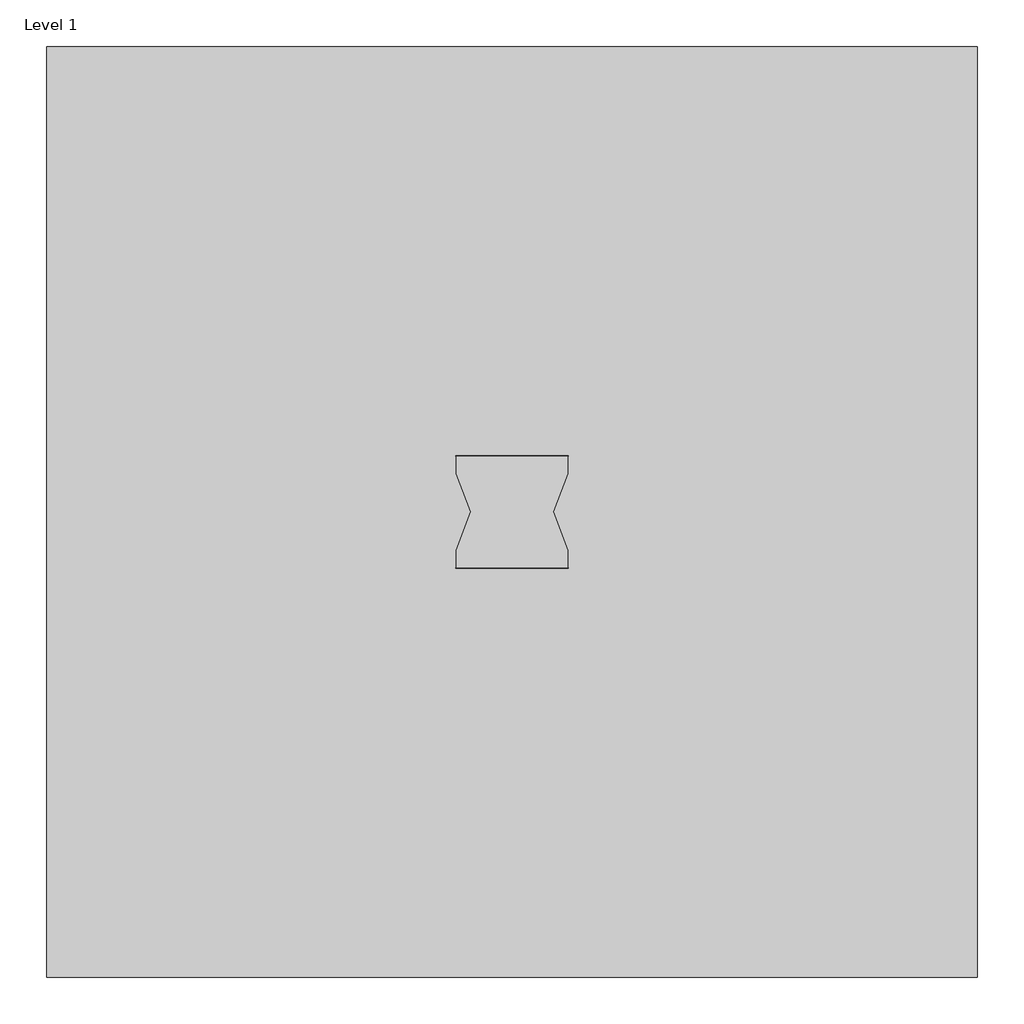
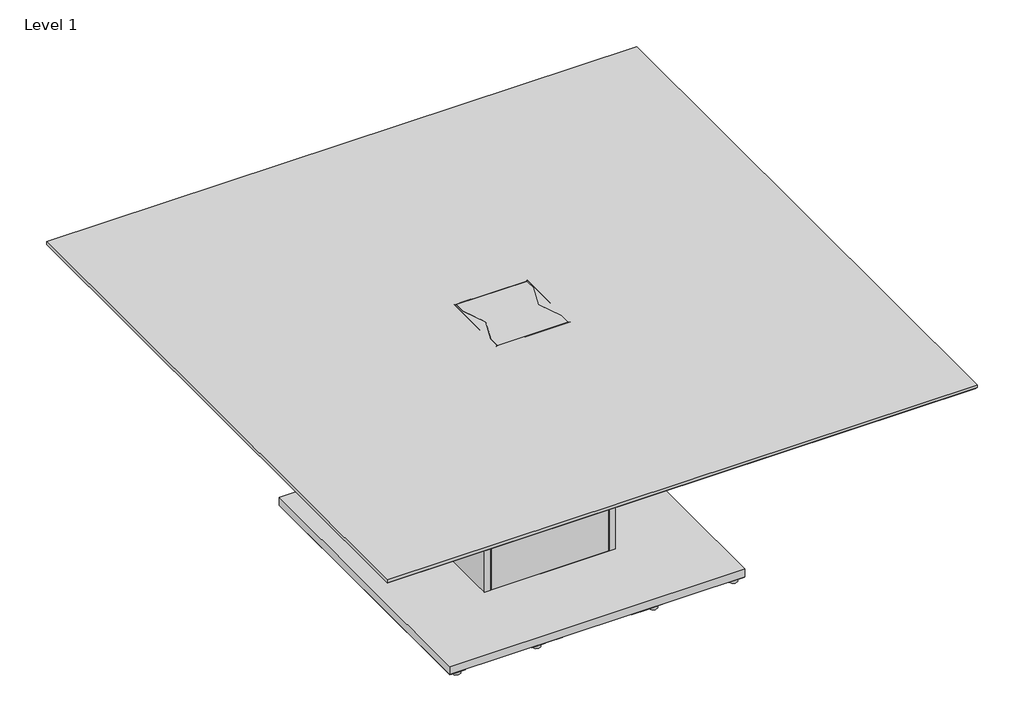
# One storey, incomplete: 34 proxies.
"""IFC4 building model written with IfcOpenShell, lengths in millimetres."""

from ifc_helpers import new_model, si_unit, origin, place, context, project, spatial, transform, mapped, element, save
from components import generic_models_52e6f8b7, generic_models_cd774e30, generic_models_1611a3a9, generic_models_f412d4dc, generic_models_36fbda0c, generic_models_1be812d6, generic_models_56d27a49, generic_models_b83a9f62, generic_models_ec8657f2, glide_1_4_mm_324_80842d46

model = new_model("IFC4")

# Units and contexts
model_context = context("Model", 3, world=origin())
ifc_project = project(units=[si_unit("LENGTHUNIT", "METRE", prefix="MILLI")], contexts=[model_context])

# Site, building, storey
site = spatial("IfcSite", under=ifc_project)
building = spatial("IfcBuilding", under=site)
storey = spatial("IfcBuildingStorey", under=building, Name="Level 1", Elevation=0.0)

# Proxies
placement = place(None, origin())
generic_models_shape = generic_models_52e6f8b7(model_context)
element("IfcBuildingElementProxy", 1, Name="AERO^TABLE 2_ATS1S-4848^CNTLVR BLK SHRT05", ObjectType="AERO^TABLE 2_ATS1S-4848^CNTLVR BLK SHRT05", at=placement, inside=storey, context=model_context, shape_type="MappedRepresentation", body=[
    mapped(generic_models_shape, transform((427.83125, 138.90625, 866.775), x_axis=(0.0, -1.0, 0.0), y_axis=(0.0, 0.0, 1.0), z_axis=(-1.0, 0.0, 0.0))),
])
element("IfcBuildingElementProxy", 2, Name="AERO^TABLE 2_ATS1S-4848^CNTLVR BLK SHRT05", ObjectType="AERO^TABLE 2_ATS1S-4848^CNTLVR BLK SHRT05", at=placement, inside=storey, context=model_context, shape_type="MappedRepresentation", body=[
    mapped(generic_models_shape, transform((143.66875, -100.80625, 866.775), x_axis=(0.0, 1.0, 0.0), y_axis=(0.0, 0.0, 1.0), z_axis=(1.0, 0.0, 0.0))),
])
element("IfcBuildingElementProxy", 3, Name="AERO^TABLE 2_ATS1S-4848^CNTLVR BLK SHRT05", ObjectType="AERO^TABLE 2_ATS1S-4848^CNTLVR BLK SHRT05", at=placement, inside=storey, context=model_context, shape_type="MappedRepresentation", body=[
    mapped(generic_models_shape, transform((143.66875, 161.13125, 866.775), x_axis=(0.0, 1.0, 0.0), y_axis=(0.0, 0.0, 1.0), z_axis=(1.0, 0.0, 0.0))),
])
element("IfcBuildingElementProxy", 4, Name="AERO^TABLE 2_ATS1S-4848^CNTLVR BLK SHRT05", ObjectType="AERO^TABLE 2_ATS1S-4848^CNTLVR BLK SHRT05", at=placement, inside=storey, context=model_context, shape_type="MappedRepresentation", body=[
    mapped(generic_models_shape, transform((427.83125, -123.03125, 866.775), x_axis=(0.0, -1.0, 0.0), y_axis=(0.0, 0.0, 1.0), z_axis=(-1.0, 0.0, 0.0))),
])
generic_models_2_shape = generic_models_cd774e30(model_context)
element("IfcBuildingElementProxy", 5, Name="AERO^TABLE 2_H-QFSB27^BASE08", ObjectType="AERO^TABLE 2_H-QFSB27^BASE08", at=placement, inside=storey, context=model_context, shape_type="MappedRepresentation", body=[
    mapped(generic_models_2_shape, transform((131.75615, 475.234, 225.9965), x_axis=(1.0, 0.0, 0.0), y_axis=(0.0, 0.0, 1.0), z_axis=(0.0, -1.0, 0.0))),
])
generic_models_3_shape = generic_models_1611a3a9(model_context)
element("IfcBuildingElementProxy", 6, Name="AERO^TABLE 2_H-QSQCB09", ObjectType="AERO^TABLE 2_H-QSQCB09", at=placement, inside=storey, context=model_context, shape_type="MappedRepresentation", body=[
    mapped(generic_models_3_shape, transform((169.06875, 323.85, 863.6), x_axis=(1.0, 0.0, 0.0), y_axis=(0.0, 0.0, 1.0), z_axis=(0.0, -1.0, 0.0))),
])
generic_models_4_shape = generic_models_f412d4dc(model_context)
element("IfcBuildingElementProxy", 7, Name="AERO^TABLE 2_H-QCSB27-SS11", ObjectType="AERO^TABLE 2_H-QCSB27-SS11", at=placement, inside=storey, context=model_context, shape_type="MappedRepresentation", body=[
    mapped(generic_models_4_shape, transform((-171.45, 476.25, 228.6), x_axis=(0.0, -1.0, 0.0), y_axis=(0.0, 0.0, 1.0), z_axis=(-1.0, 0.0, 0.0))),
])
generic_models_5_shape = generic_models_36fbda0c(model_context)
element("IfcBuildingElementProxy", 8, Name="AERO^TABLE 2_ATS1S-4848^CNTLVR BLK06", ObjectType="AERO^TABLE 2_ATS1S-4848^CNTLVR BLK06", at=placement, inside=storey, context=model_context, shape_type="MappedRepresentation", body=[
    mapped(generic_models_5_shape, transform((143.66875, -100.80625, 866.775), x_axis=(-1.0, 0.0, 0.0), y_axis=(0.0, 0.0, 1.0), z_axis=(0.0, 1.0, 0.0))),
])
element("IfcBuildingElementProxy", 9, Name="AERO^TABLE 2_ATS1S-4848^CNTLVR BLK06", ObjectType="AERO^TABLE 2_ATS1S-4848^CNTLVR BLK06", at=placement, inside=storey, context=model_context, shape_type="MappedRepresentation", body=[
    mapped(generic_models_5_shape, transform((427.83125, 138.90625, 866.775), x_axis=(1.0, 0.0, 0.0), y_axis=(0.0, 0.0, 1.0), z_axis=(0.0, -1.0, 0.0))),
])
element("IfcBuildingElementProxy", 10, Name="AERO^TABLE 2_ATS1S-4848^CNTLVR BLK06", ObjectType="AERO^TABLE 2_ATS1S-4848^CNTLVR BLK06", at=placement, inside=storey, context=model_context, shape_type="MappedRepresentation", body=[
    mapped(generic_models_5_shape, transform((165.89375, 138.90625, 866.775), x_axis=(1.0, 0.0, 0.0), y_axis=(0.0, 0.0, 1.0), z_axis=(0.0, -1.0, 0.0))),
])
element("IfcBuildingElementProxy", 11, Name="AERO^TABLE 2_ATS1S-4848^CNTLVR BLK06", ObjectType="AERO^TABLE 2_ATS1S-4848^CNTLVR BLK06", at=placement, inside=storey, context=model_context, shape_type="MappedRepresentation", body=[
    mapped(generic_models_5_shape, transform((405.60625, -100.80625, 866.775), x_axis=(-1.0, 0.0, 0.0), y_axis=(0.0, 0.0, 1.0), z_axis=(0.0, 1.0, 0.0))),
])
generic_models_6_shape = generic_models_1be812d6(model_context)
element("IfcBuildingElementProxy", 12, Name="AERO^TABLE 2_ATS1S-4848^Shroud 0107", ObjectType="AERO^TABLE 2_ATS1S-4848^Shroud 0107", at=placement, inside=storey, context=model_context, shape_type="MappedRepresentation", body=[
    mapped(generic_models_6_shape, transform((-626.26875, 955.675, 962.2376847), x_axis=(0.0, -0.999999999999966, 0.0), y_axis=(0.25881904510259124, 0.0, 0.9659258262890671), z_axis=(-0.9659258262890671, 0.0, 0.25881904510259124))),
])
element("IfcBuildingElementProxy", 13, Name="AERO^TABLE 2_ATS1S-4848^Shroud 0107", ObjectType="AERO^TABLE 2_ATS1S-4848^Shroud 0107", at=placement, inside=storey, context=model_context, shape_type="MappedRepresentation", body=[
    mapped(generic_models_6_shape, transform((1222.375, 931.06875, 962.2376847), x_axis=(-0.9999999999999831, 0.0, 0.0), y_axis=(0.0, -0.2588190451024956, 0.9659258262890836), z_axis=(0.0, 0.9659258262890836, 0.2588190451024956))),
])
element("IfcBuildingElementProxy", 14, Name="AERO^TABLE 2_ATS1S-4848^Shroud 0107", ObjectType="AERO^TABLE 2_ATS1S-4848^Shroud 0107", at=placement, inside=storey, context=model_context, shape_type="MappedRepresentation", body=[
    mapped(generic_models_6_shape, transform((-650.875, -892.96875, 962.2376847), x_axis=(0.9999999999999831, 0.0, 0.0), y_axis=(0.0, 0.2588190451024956, 0.9659258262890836), z_axis=(0.0, -0.9659258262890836, 0.2588190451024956))),
])
element("IfcBuildingElementProxy", 15, Name="AERO^TABLE 2_ATS1S-4848^Shroud 0107", ObjectType="AERO^TABLE 2_ATS1S-4848^Shroud 0107", at=placement, inside=storey, context=model_context, shape_type="MappedRepresentation", body=[
    mapped(generic_models_6_shape, transform((1197.76875, -917.575, 962.2376847), x_axis=(0.0, 0.9999999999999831, 0.0), y_axis=(-0.2588190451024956, 0.0, 0.9659258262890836), z_axis=(0.9659258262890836, 0.0, 0.2588190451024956))),
])
generic_models_7_shape = generic_models_56d27a49(model_context)
element("IfcBuildingElementProxy", 16, Name="AERO^TABLE 2_ATS1S-4848^PVD DOOR04", ObjectType="AERO^TABLE 2_ATS1S-4848^PVD DOOR04", at=placement, inside=storey, context=model_context, shape_type="MappedRepresentation", body=[
    mapped(generic_models_7_shape, transform((363.2508951, -88.6968214, 955.675), x_axis=(1.0, 0.0, 0.0), y_axis=(0.0, 0.0, 1.0), z_axis=(0.0, -1.0, 0.0))),
])
generic_models_8_shape = generic_models_b83a9f62(model_context)
element("IfcBuildingElementProxy", 17, Name="AERO^TABLE 2_ATS1S-4848^ATS1SD-6060-TOP03", ObjectType="AERO^TABLE 2_ATS1S-4848^ATS1SD-6060-TOP03", at=placement, inside=storey, context=model_context, shape_type="MappedRepresentation", body=[
    mapped(generic_models_8_shape, transform((0.0, 0.0, 0.0), x_axis=(1.0, 0.0, 0.0), y_axis=(0.0, 0.0, 1.0), z_axis=(0.0, -1.0, 0.0))),
])
generic_models_9_shape = generic_models_ec8657f2(model_context)
element("IfcBuildingElementProxy", 18, Name="AERO^TABLE 2__AMC-101010", ObjectType="AERO^TABLE 2__AMC-101010", at=placement, inside=storey, context=model_context, shape_type="MappedRepresentation", body=[
    mapped(generic_models_9_shape, transform((101.6, 203.2, 254.0), x_axis=(1.0, 0.0, 0.0), y_axis=(0.0, 0.0, 1.0), z_axis=(0.0, -1.0, 0.0))),
])
glide_1_4_mm_324_shape = glide_1_4_mm_324_80842d46(model_context)
element("IfcBuildingElementProxy", 19, Name="GLIDE 1-4 (MM-324)", ObjectType="GLIDE 1-4 (MM-324)", at=placement, inside=storey, context=model_context, shape_type="MappedRepresentation", body=[
    mapped(glide_1_4_mm_324_shape, transform((104.76865, -82.55, 216.4715), x_axis=(0.9999999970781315, -7.644413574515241e-05, 0.0), y_axis=(7.644413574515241e-05, 0.9999999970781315, 0.0), z_axis=(0.0, 0.0, 1.0000000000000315))),
])
element("IfcBuildingElementProxy", 20, Name="GLIDE 1-4 (MM-324)", ObjectType="GLIDE 1-4 (MM-324)", at=placement, inside=storey, context=model_context, shape_type="MappedRepresentation", body=[
    mapped(glide_1_4_mm_324_shape, transform((-143.4592, 462.534, 216.4715), x_axis=(0.9999725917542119, 0.007403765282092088, 0.0), y_axis=(-0.007403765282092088, 0.9999725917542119, 0.0), z_axis=(0.0, 0.0, 1.000000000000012))),
])
element("IfcBuildingElementProxy", 21, Name="GLIDE 1-4 (MM-324)", ObjectType="GLIDE 1-4 (MM-324)", at=placement, inside=storey, context=model_context, shape_type="MappedRepresentation", body=[
    mapped(glide_1_4_mm_324_shape, transform((714.9465, -424.434, 216.4715), x_axis=(0.9999794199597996, -0.006415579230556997, 0.0), y_axis=(0.006415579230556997, 0.9999794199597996, 0.0), z_axis=(0.0, 0.0, 0.9999999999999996))),
])
element("IfcBuildingElementProxy", 22, Name="GLIDE 1-4 (MM-324)", ObjectType="GLIDE 1-4 (MM-324)", at=placement, inside=storey, context=model_context, shape_type="MappedRepresentation", body=[
    mapped(glide_1_4_mm_324_shape, transform((714.9465, 120.65, 216.4715), x_axis=(0.9999957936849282, 0.0029004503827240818, 0.0), y_axis=(-0.0029004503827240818, 0.9999957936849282, 0.0), z_axis=(0.0, 0.0, 1.0000000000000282))),
])
element("IfcBuildingElementProxy", 23, Name="GLIDE 1-4 (MM-324)", ObjectType="GLIDE 1-4 (MM-324)", at=placement, inside=storey, context=model_context, shape_type="MappedRepresentation", body=[
    mapped(glide_1_4_mm_324_shape, transform((104.76865, -424.434, 216.4715), x_axis=(0.9999877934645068, 0.004940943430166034, 0.0), y_axis=(-0.004940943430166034, 0.9999877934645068, 0.0), z_axis=(0.0, 0.0, 1.0000000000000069))),
])
element("IfcBuildingElementProxy", 24, Name="GLIDE 1-4 (MM-324)", ObjectType="GLIDE 1-4 (MM-324)", at=placement, inside=storey, context=model_context, shape_type="MappedRepresentation", body=[
    mapped(glide_1_4_mm_324_shape, transform((-143.4592, -82.55, 216.4715), x_axis=(0.9999858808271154, -0.005313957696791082, 0.0), y_axis=(0.005313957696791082, 0.9999858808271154, 0.0), z_axis=(0.0, 0.0, 1.0000000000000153))),
])
element("IfcBuildingElementProxy", 25, Name="GLIDE 1-4 (MM-324)", ObjectType="GLIDE 1-4 (MM-324)", at=placement, inside=storey, context=model_context, shape_type="MappedRepresentation", body=[
    mapped(glide_1_4_mm_324_shape, transform((714.9465, 462.534, 216.4715), x_axis=(0.9999048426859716, 0.013795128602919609, 0.0), y_axis=(-0.013795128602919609, 0.9999048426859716, 0.0), z_axis=(0.0, 0.0, 0.9999999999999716))),
])
element("IfcBuildingElementProxy", 26, Name="GLIDE 1-4 (MM-324)", ObjectType="GLIDE 1-4 (MM-324)", at=placement, inside=storey, context=model_context, shape_type="MappedRepresentation", body=[
    mapped(glide_1_4_mm_324_shape, transform((-143.4592, -424.434, 216.4715), x_axis=(0.9999997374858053, 0.0007245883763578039, 0.0), y_axis=(-0.0007245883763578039, 0.9999997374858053, 0.0), z_axis=(0.0, 0.0, 1.0000000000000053))),
])
element("IfcBuildingElementProxy", 27, Name="GLIDE 1-4 (MM-324)", ObjectType="GLIDE 1-4 (MM-324)", at=placement, inside=storey, context=model_context, shape_type="MappedRepresentation", body=[
    mapped(glide_1_4_mm_324_shape, transform((104.76865, 462.534, 216.4715), x_axis=(0.9999090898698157, 0.013483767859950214, 0.0), y_axis=(-0.013483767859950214, 0.9999090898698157, 0.0), z_axis=(0.0, 0.0, 1.0000000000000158))),
])
element("IfcBuildingElementProxy", 28, Name="GLIDE 1-4 (MM-324)", ObjectType="GLIDE 1-4 (MM-324)", at=placement, inside=storey, context=model_context, shape_type="MappedRepresentation", body=[
    mapped(glide_1_4_mm_324_shape, transform((-143.4592, 120.65, 216.4715), x_axis=(0.999975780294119, -0.0069598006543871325, 0.0), y_axis=(0.0069598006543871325, 0.999975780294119, 0.0), z_axis=(0.0, 0.0, 1.000000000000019))),
])
element("IfcBuildingElementProxy", 29, Name="GLIDE 1-4 (MM-324)", ObjectType="GLIDE 1-4 (MM-324)", at=placement, inside=storey, context=model_context, shape_type="MappedRepresentation", body=[
    mapped(glide_1_4_mm_324_shape, transform((104.76865, 120.65, 216.4715), x_axis=(0.9999970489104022, -0.0024294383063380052, 0.0), y_axis=(0.0024294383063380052, 0.9999970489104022, 0.0), z_axis=(0.0, 0.0, 1.0000000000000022))),
])
element("IfcBuildingElementProxy", 30, Name="GLIDE 1-4 (MM-324)", ObjectType="GLIDE 1-4 (MM-324)", at=placement, inside=storey, context=model_context, shape_type="MappedRepresentation", body=[
    mapped(glide_1_4_mm_324_shape, transform((466.71865, -82.55, 216.4715), x_axis=(0.9999611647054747, 0.008813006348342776, 0.0), y_axis=(-0.008813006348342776, 0.9999611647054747, 0.0), z_axis=(0.0, 0.0, 0.9999999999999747))),
])
element("IfcBuildingElementProxy", 31, Name="GLIDE 1-4 (MM-324)", ObjectType="GLIDE 1-4 (MM-324)", at=placement, inside=storey, context=model_context, shape_type="MappedRepresentation", body=[
    mapped(glide_1_4_mm_324_shape, transform((466.71865, 462.534, 216.4715), x_axis=(0.9998662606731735, 0.016354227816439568, 0.0), y_axis=(-0.016354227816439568, 0.9998662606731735, 0.0), z_axis=(0.0, 0.0, 0.9999999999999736))),
])
element("IfcBuildingElementProxy", 32, Name="GLIDE 1-4 (MM-324)", ObjectType="GLIDE 1-4 (MM-324)", at=placement, inside=storey, context=model_context, shape_type="MappedRepresentation", body=[
    mapped(glide_1_4_mm_324_shape, transform((466.71865, -424.434, 216.4715), x_axis=(0.9999655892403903, 0.008295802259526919, 0.0), y_axis=(-0.008295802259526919, 0.9999655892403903, 0.0), z_axis=(0.0, 0.0, 0.9999999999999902))),
])
element("IfcBuildingElementProxy", 33, Name="GLIDE 1-4 (MM-324)", ObjectType="GLIDE 1-4 (MM-324)", at=placement, inside=storey, context=model_context, shape_type="MappedRepresentation", body=[
    mapped(glide_1_4_mm_324_shape, transform((466.71865, 120.65, 216.4715), x_axis=(1.0, 0.0, 0.0), y_axis=(0.0, 1.0, 0.0), z_axis=(0.0, 0.0, 1.0))),
])
element("IfcBuildingElementProxy", 34, Name="GLIDE 1-4 (MM-324)", ObjectType="GLIDE 1-4 (MM-324)", at=placement, inside=storey, context=model_context, shape_type="MappedRepresentation", body=[
    mapped(glide_1_4_mm_324_shape, transform((714.9465, -82.55, 216.4715), x_axis=(0.9999928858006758, 0.0037720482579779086, 0.0), y_axis=(-0.0037720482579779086, 0.9999928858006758, 0.0), z_axis=(0.0, 0.0, 0.9999999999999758))),
])

save(model, "model.ifc")
